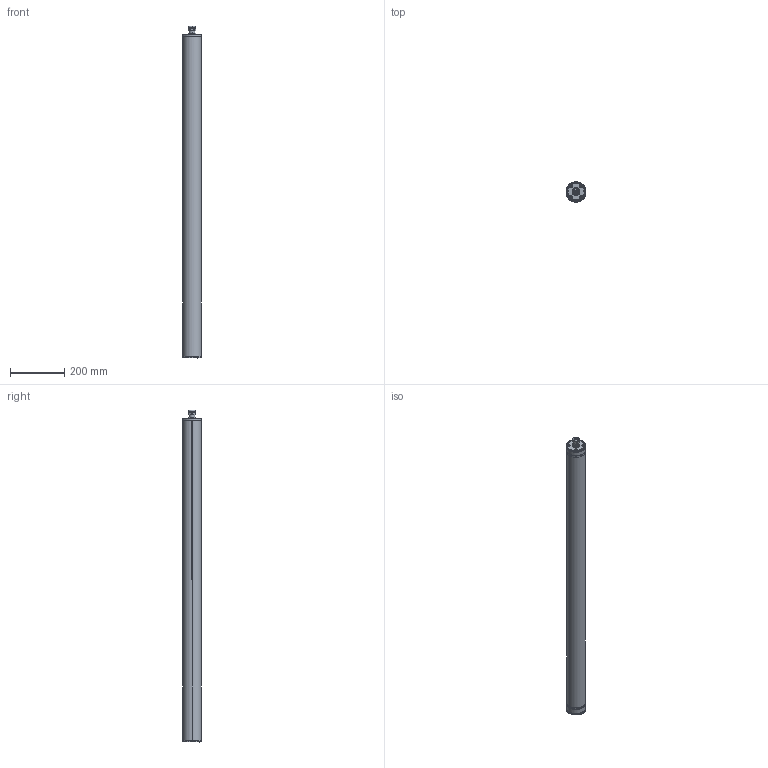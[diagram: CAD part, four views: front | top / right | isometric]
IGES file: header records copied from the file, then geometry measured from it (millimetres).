
Start section: SolidWorks IGES file using analytic representation for surfaces
Global section: file name: C:\Users\JoãoSantos\Desktop\02_3D.2D\01_2020\02_Linear\02_Tubo\02_Tubo_70\Normal\TUBO_70_1192.IGS; native system: SolidWorks 2020; preprocessor: SolidWorks 2020; author: JoãoSantos; date: 201020.180313; units: millimetre
Bounding box: 73 x 73 x 1224.7 mm (x, y, z)
Surface area: 597757 mm2 (no closed solid volume)
Topology: 0 solids, 0 shells, 1608 faces, 15018 edges, 14852 vertices
Faces by surface type: revolution 888, bspline 720
